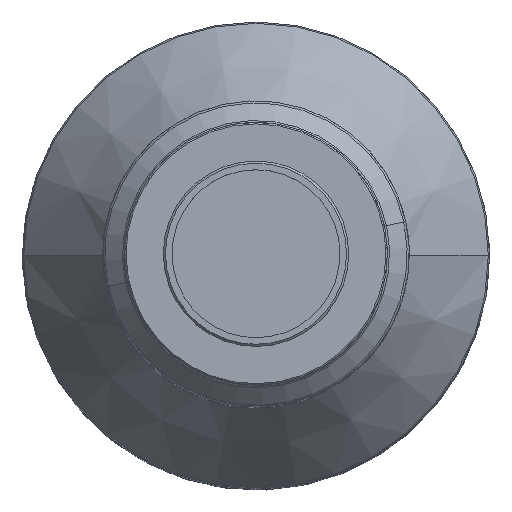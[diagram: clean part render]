
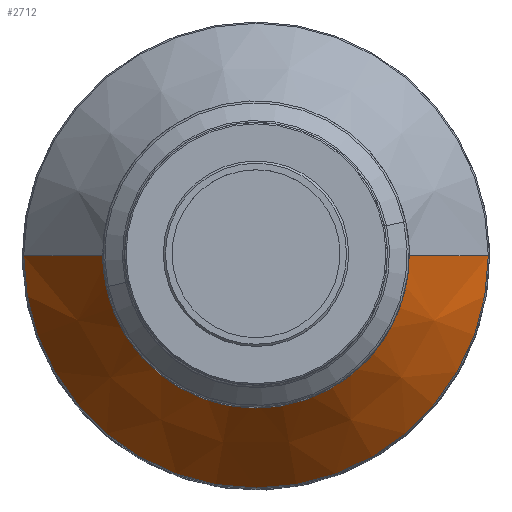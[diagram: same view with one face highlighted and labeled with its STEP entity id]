
A CAD part, top view. The second image highlights one B-rep face of the part: STEP entity #2712.
In plain terms, the highlighted conical face has half-angle 35 degrees and reference radius 32 mm.
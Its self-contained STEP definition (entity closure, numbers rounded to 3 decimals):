
#94 = EDGE_CURVE ( 'NONE', #1099, #1811, #1709, .T. ) ;
#204 = AXIS2_PLACEMENT_3D ( 'NONE', #1036, #374, #2580 ) ;
#374 = DIRECTION ( 'NONE',  ( 0., 0., 1. ) ) ;
#383 = AXIS2_PLACEMENT_3D ( 'NONE', #992, #739, #2774 ) ;
#481 = LINE ( 'NONE', #534, #2034 ) ;
#500 = ORIENTED_EDGE ( 'NONE', *, *, #2041, .T. ) ;
#534 = CARTESIAN_POINT ( 'NONE',  ( -32., 0., -9.306 ) ) ;
#569 = CONICAL_SURFACE ( 'NONE', #1744, 32., 0.611 ) ;
#594 = CIRCLE ( 'NONE', #383, 20.181 ) ;
#676 = FACE_OUTER_BOUND ( 'NONE', #819, .T. ) ;
#739 = DIRECTION ( 'NONE',  ( 0., 0., -1. ) ) ;
#776 = DIRECTION ( 'NONE',  ( -0.574, 0., -0.819 ) ) ;
#819 = EDGE_LOOP ( 'NONE', ( #1614, #500, #1533, #2255 ) ) ;
#883 = VERTEX_POINT ( 'NONE', #1995 ) ;
#936 = CARTESIAN_POINT ( 'NONE',  ( -31.819, 0., -9.048 ) ) ;
#988 = CARTESIAN_POINT ( 'NONE',  ( 31.819, 0., -9.048 ) ) ;
#992 = CARTESIAN_POINT ( 'NONE',  ( 0., 0., 7.573 ) ) ;
#996 = CIRCLE ( 'NONE', #204, 31.819 ) ;
#1036 = CARTESIAN_POINT ( 'NONE',  ( 0., 0., -9.048 ) ) ;
#1099 = VERTEX_POINT ( 'NONE', #2506 ) ;
#1169 = DIRECTION ( 'NONE',  ( 0.574, 0., -0.819 ) ) ;
#1298 = DIRECTION ( 'NONE',  ( 0., 0., -1. ) ) ;
#1530 = VECTOR ( 'NONE', #1169, 1000. ) ;
#1533 = ORIENTED_EDGE ( 'NONE', *, *, #2196, .T. ) ;
#1614 = ORIENTED_EDGE ( 'NONE', *, *, #94, .F. ) ;
#1709 = LINE ( 'NONE', #2303, #1530 ) ;
#1744 = AXIS2_PLACEMENT_3D ( 'NONE', #1947, #1298, #2660 ) ;
#1775 = VERTEX_POINT ( 'NONE', #936 ) ;
#1811 = VERTEX_POINT ( 'NONE', #988 ) ;
#1947 = CARTESIAN_POINT ( 'NONE',  ( 0., 0., -9.306 ) ) ;
#1995 = CARTESIAN_POINT ( 'NONE',  ( -20.181, 0., 7.573 ) ) ;
#2034 = VECTOR ( 'NONE', #776, 1000. ) ;
#2041 = EDGE_CURVE ( 'NONE', #1099, #883, #594, .T. ) ;
#2196 = EDGE_CURVE ( 'NONE', #883, #1775, #481, .T. ) ;
#2255 = ORIENTED_EDGE ( 'NONE', *, *, #2568, .T. ) ;
#2303 = CARTESIAN_POINT ( 'NONE',  ( 32., 0., -9.306 ) ) ;
#2506 = CARTESIAN_POINT ( 'NONE',  ( 20.181, 0., 7.573 ) ) ;
#2568 = EDGE_CURVE ( 'NONE', #1775, #1811, #996, .T. ) ;
#2580 = DIRECTION ( 'NONE',  ( 1., 0., 0. ) ) ;
#2660 = DIRECTION ( 'NONE',  ( -1., 0., 0. ) ) ;
#2712 = ADVANCED_FACE ( 'NONE', ( #676 ), #569, .T. ) ;
#2774 = DIRECTION ( 'NONE',  ( -1., 0., 0. ) ) ;
